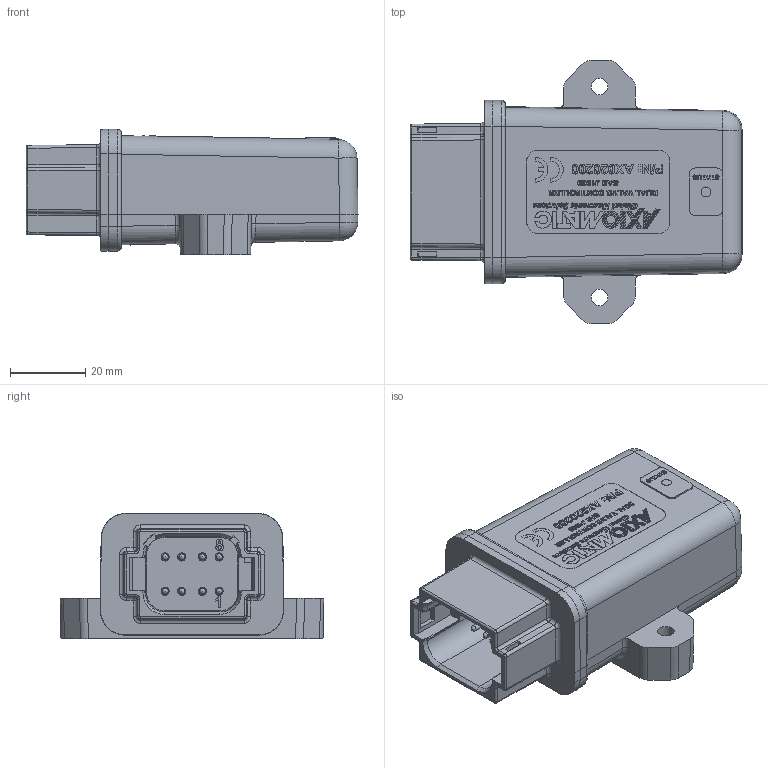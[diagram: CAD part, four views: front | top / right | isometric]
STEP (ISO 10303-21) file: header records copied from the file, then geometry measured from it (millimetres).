
FILE_DESCRIPTION(/* description */ (''),/* implementation_level */ '2;1');
FILE_NAME(/* name */ 'S:\Projects\CAN-2OUT-LC, AX020200, Proj_15004\UNIT ASSEMBLY\RELEASED\P1\AX020200.stp',/* time_stamp */ '2016-12-13T14:07:36-05:00',/* author */ ('tfisher'),/* organization */ (''),/* preprocessor_version */ 'ST-DEVELOPER v15.2',/* originating_system */ 'Autodesk Inventor 2014',/* authorisation */ '');
FILE_SCHEMA (('AUTOMOTIVE_DESIGN { 1 0 10303 214 3 1 1 }'));
Products named in the file (1): FG-AX020200 for STEP_Shrinkwrap_1
Bounding box: 88.23 x 70 x 33.35 mm (x, y, z)
Volume: 32780.1 mm3; surface area: 33150.8 mm2
Topology: 1 solids, 5 shells, 2117 faces, 5431 edges, 3492 vertices
Faces by surface type: plane 1199, bspline 541, cylinder 279, sphere 58, cone 28, torus 12
Full cylindrical faces by diameter (mm): 1.524 x16, 1.575 x8, 2.184 x8, 2.619 x1, 3.861 x1, 5.004 x1
Entity records: 74343 total; most frequent: CARTESIAN_POINT 24789, ORIENTED_EDGE 10556, DIRECTION 8055, EDGE_CURVE 5278, LINE 3483, VECTOR 3483, VERTEX_POINT 3453, EDGE_LOOP 2409
